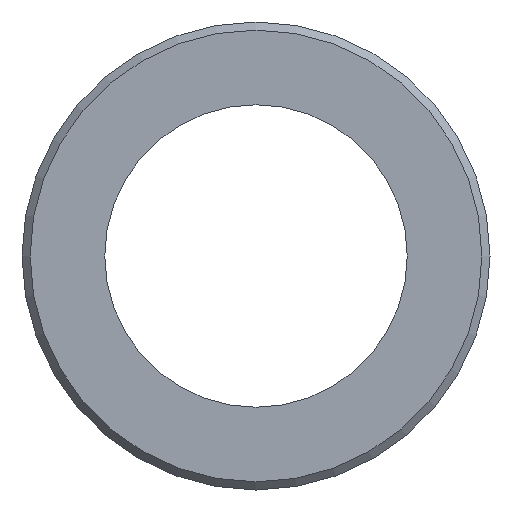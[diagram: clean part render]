
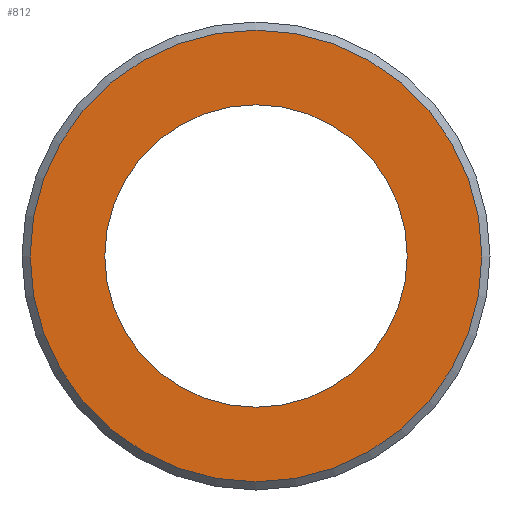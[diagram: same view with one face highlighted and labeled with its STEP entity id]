
A CAD part, front view. The second image highlights one B-rep face of the part: STEP entity #812.
In plain terms, the highlighted planar face has unit normal (0, -1, 0).
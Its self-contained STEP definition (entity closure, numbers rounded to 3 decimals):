
#15=FACE_BOUND('',#242,.T.);
#30=PLANE('',#905);
#198=FACE_OUTER_BOUND('',#241,.T.);
#241=EDGE_LOOP('',(#653));
#242=EDGE_LOOP('',(#654,#655));
#292=CIRCLE('',#901,16.65);
#295=CIRCLE('',#906,11.15);
#296=CIRCLE('',#907,11.15);
#392=VERTEX_POINT('',#1384);
#395=VERTEX_POINT('',#1394);
#396=VERTEX_POINT('',#1395);
#493=EDGE_CURVE('',#392,#392,#292,.T.);
#497=EDGE_CURVE('',#395,#396,#295,.T.);
#498=EDGE_CURVE('',#396,#395,#296,.T.);
#653=ORIENTED_EDGE('',*,*,#493,.F.);
#654=ORIENTED_EDGE('',*,*,#497,.T.);
#655=ORIENTED_EDGE('',*,*,#498,.T.);
#812=ADVANCED_FACE('',(#198,#15),#30,.T.);
#901=AXIS2_PLACEMENT_3D('',#1386,#1079,#1080);
#905=AXIS2_PLACEMENT_3D('',#1393,#1088,#1089);
#906=AXIS2_PLACEMENT_3D('',#1396,#1090,#1091);
#907=AXIS2_PLACEMENT_3D('',#1397,#1092,#1093);
#1079=DIRECTION('center_axis',(0.,1.,0.));
#1080=DIRECTION('ref_axis',(1.,0.,0.));
#1088=DIRECTION('center_axis',(0.,-1.,0.));
#1089=DIRECTION('ref_axis',(0.,0.,-1.));
#1090=DIRECTION('center_axis',(0.,1.,0.));
#1091=DIRECTION('ref_axis',(-1.,0.,0.));
#1092=DIRECTION('center_axis',(0.,1.,0.));
#1093=DIRECTION('ref_axis',(-1.,0.,0.));
#1384=CARTESIAN_POINT('',(-16.65,0.,0.));
#1386=CARTESIAN_POINT('Origin',(0.,0.,0.));
#1393=CARTESIAN_POINT('Origin',(-14.2,0.,0.));
#1394=CARTESIAN_POINT('',(-11.15,0.,0.));
#1395=CARTESIAN_POINT('',(11.15,0.,0.));
#1396=CARTESIAN_POINT('Origin',(0.,0.,
0.));
#1397=CARTESIAN_POINT('Origin',(0.,0.,
0.));
